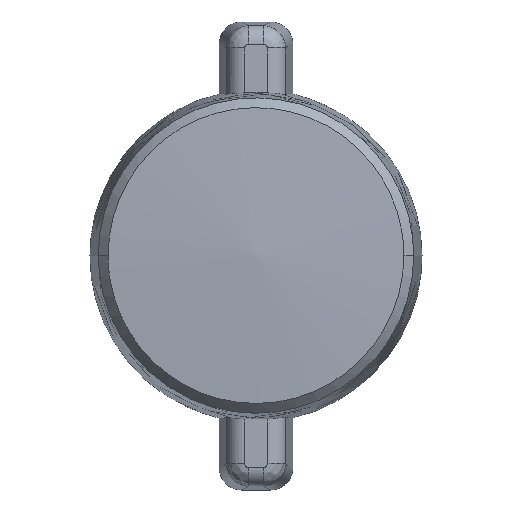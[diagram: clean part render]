
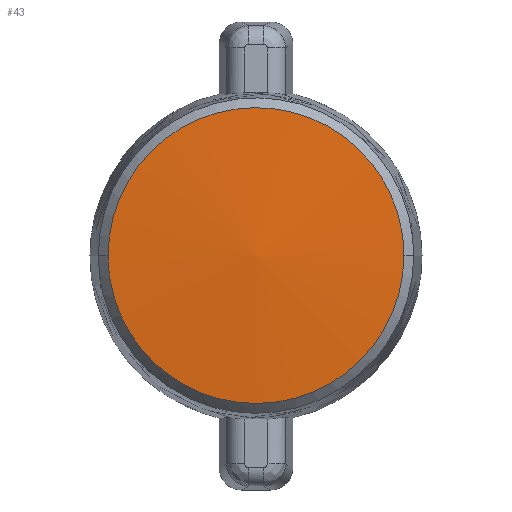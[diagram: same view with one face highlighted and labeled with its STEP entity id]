
A CAD part, top view. The second image highlights one B-rep face of the part: STEP entity #43.
In plain terms, the highlighted free-form (B-spline) face has degree [2, 2] with [3, 3] control points.
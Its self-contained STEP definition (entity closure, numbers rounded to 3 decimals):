
#43=ADVANCED_FACE('',(#95),#801,.T.);
#95=FACE_OUTER_BOUND('',#148,.T.);
#148=EDGE_LOOP('',(#316,#317));
#316=ORIENTED_EDGE('',*,*,#566,.F.);
#317=ORIENTED_EDGE('',*,*,#505,.F.);
#505=EDGE_CURVE('',#749,#784,#681,.T.);
#566=EDGE_CURVE('',#784,#749,#701,.T.);
#681=B_SPLINE_CURVE_WITH_KNOTS('',3,(#1744,#1745,#1746,#1747,#1748,#1749,
#1750,#1751,#1752,#1753,#1754),.UNSPECIFIED.,.F.,.F.,(4,1,1,1,1,1,1,1,4),
(0.,1.56,3.121,4.681,6.242,7.802,
9.363,10.923,12.484),.UNSPECIFIED.);
#701=B_SPLINE_CURVE_WITH_KNOTS('',3,(#2081,#2082,#2083,#2084,#2085,#2086,
#2087,#2088,#2089,#2090,#2091),.UNSPECIFIED.,.F.,.F.,(4,1,1,1,1,1,1,1,4),
(12.484,14.044,15.605,17.165,18.726,
20.286,21.847,23.407,24.968),
 .UNSPECIFIED.);
#749=VERTEX_POINT('',#1503);
#784=VERTEX_POINT('',#1538);
#801=(
BOUNDED_SURFACE()
B_SPLINE_SURFACE(2,2,((#1447,#1448,#1449),(#1450,#1451,#1452),(#1453,#1454,
#1455)),.UNSPECIFIED.,.F.,.F.,.F.)
B_SPLINE_SURFACE_WITH_KNOTS((3,3),(3,3),(105.858,114.053),
(-4.097,4.097),.UNSPECIFIED.)
GEOMETRIC_REPRESENTATION_ITEM()
RATIONAL_B_SPLINE_SURFACE(((1.,0.993,1.),(0.993,
0.986,0.993),(1.,0.993,1.)))
REPRESENTATION_ITEM('')
SURFACE()
);
#1447=CARTESIAN_POINT('',(4.06,4.088,6.523));
#1448=CARTESIAN_POINT('',(4.116,0.,7.));
#1449=CARTESIAN_POINT('',(4.06,-4.088,6.523));
#1450=CARTESIAN_POINT('',(0.,4.088,7.));
#1451=CARTESIAN_POINT('',(0.,0.,7.484));
#1452=CARTESIAN_POINT('',(0.,-4.088,7.));
#1453=CARTESIAN_POINT('',(-4.06,4.088,6.522));
#1454=CARTESIAN_POINT('',(-4.116,0.,7.));
#1455=CARTESIAN_POINT('',(-4.06,-4.088,6.522));
#1503=CARTESIAN_POINT('',(4.008,0.,6.77));
#1538=CARTESIAN_POINT('',(-4.008,0.,6.77));
#1744=CARTESIAN_POINT('',(4.008,0.,6.77));
#1745=CARTESIAN_POINT('',(4.008,-0.525,6.77));
#1746=CARTESIAN_POINT('',(3.8,-1.574,6.77));
#1747=CARTESIAN_POINT('',(2.908,-2.908,6.77));
#1748=CARTESIAN_POINT('',(1.574,-3.8,6.77));
#1749=CARTESIAN_POINT('',(0.,-4.113,6.77));
#1750=CARTESIAN_POINT('',(-1.574,-3.8,6.77));
#1751=CARTESIAN_POINT('',(-2.908,-2.908,6.77));
#1752=CARTESIAN_POINT('',(-3.8,-1.574,6.77));
#1753=CARTESIAN_POINT('',(-4.008,-0.525,6.77));
#1754=CARTESIAN_POINT('',(-4.008,0.,6.77));
#2081=CARTESIAN_POINT('',(-4.008,0.,6.77));
#2082=CARTESIAN_POINT('',(-4.008,0.525,6.77));
#2083=CARTESIAN_POINT('',(-3.8,1.574,6.77));
#2084=CARTESIAN_POINT('',(-2.908,2.908,6.77));
#2085=CARTESIAN_POINT('',(-1.574,3.8,6.77));
#2086=CARTESIAN_POINT('',(0.,4.113,6.77));
#2087=CARTESIAN_POINT('',(1.574,3.8,6.77));
#2088=CARTESIAN_POINT('',(2.908,2.908,6.77));
#2089=CARTESIAN_POINT('',(3.8,1.574,6.77));
#2090=CARTESIAN_POINT('',(4.008,0.525,6.77));
#2091=CARTESIAN_POINT('',(4.008,0.,6.77));
